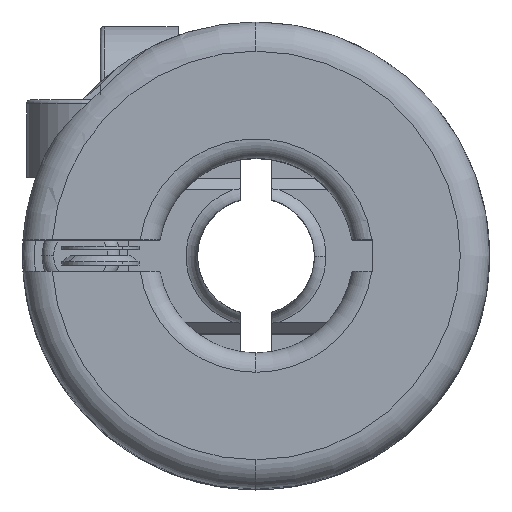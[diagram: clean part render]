
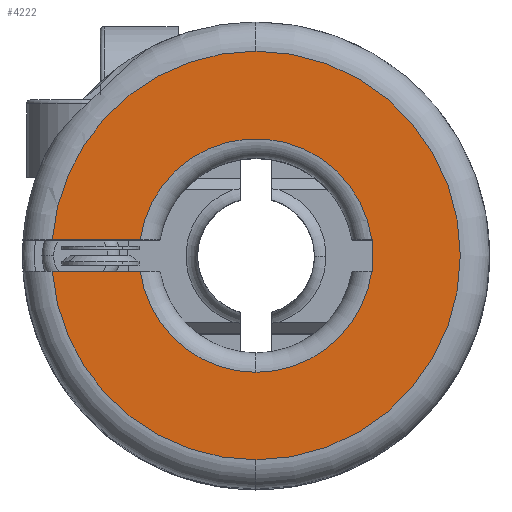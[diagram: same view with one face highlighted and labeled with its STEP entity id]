
A CAD part, top view. The second image highlights one B-rep face of the part: STEP entity #4222.
In plain terms, the highlighted planar face has unit normal (0, 0, 1).
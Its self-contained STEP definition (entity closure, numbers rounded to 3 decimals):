
#2493 = EDGE_CURVE ( 'NONE', #2494, #2495, #14446, .T. ) ;
#2494 = VERTEX_POINT ( 'NONE', #14432 ) ;
#2495 = VERTEX_POINT ( 'NONE', #14431 ) ;
#2546 = EDGE_CURVE ( 'NONE', #2547, #2494, #14548, .T. ) ;
#2547 = VERTEX_POINT ( 'NONE', #14543 ) ;
#2643 = VERTEX_POINT ( 'NONE', #14802 ) ;
#2645 = EDGE_CURVE ( 'NONE', #2646, #2643, #14801, .T. ) ;
#2646 = VERTEX_POINT ( 'NONE', #14796 ) ;
#4203 = ORIENTED_EDGE ( 'NONE', *, *, #2546, .T. ) ;
#4204 = ORIENTED_EDGE ( 'NONE', *, *, #2493, .T. ) ;
#4205 = ORIENTED_EDGE ( 'NONE', *, *, #4206, .F. ) ;
#4206 = EDGE_CURVE ( 'NONE', #4207, #2495, #19859, .T. ) ;
#4207 = VERTEX_POINT ( 'NONE', #19855 ) ;
#4208 = ORIENTED_EDGE ( 'NONE', *, *, #4209, .T. ) ;
#4209 = EDGE_CURVE ( 'NONE', #4207, #4210, #19854, .T. ) ;
#4210 = VERTEX_POINT ( 'NONE', #19849 ) ;
#4211 = ORIENTED_EDGE ( 'NONE', *, *, #4212, .F. ) ;
#4212 = EDGE_CURVE ( 'NONE', #4216, #4210, #19848, .T. ) ;
#4213 = ORIENTED_EDGE ( 'NONE', *, *, #4245, .F. ) ;
#4214 = ORIENTED_EDGE ( 'NONE', *, *, #4215, .T. ) ;
#4215 = EDGE_CURVE ( 'NONE', #4243, #2646, #19844, .T. ) ;
#4216 = VERTEX_POINT ( 'NONE', #19840 ) ;
#4222 = ADVANCED_FACE ( 'NONE', ( #19892 ), #19891, .F. ) ;
#4223 = EDGE_LOOP ( 'NONE', ( #4225, #4229, #4203, #4204, #4205, #4208, #4211, #4213, #4214, #4366, #4367 ) ) ;
#4225 = ORIENTED_EDGE ( 'NONE', *, *, #4226, .T. ) ;
#4226 = EDGE_CURVE ( 'NONE', #4227, #4228, #19881, .T. ) ;
#4227 = VERTEX_POINT ( 'NONE', #19877 ) ;
#4228 = VERTEX_POINT ( 'NONE', #19876 ) ;
#4229 = ORIENTED_EDGE ( 'NONE', *, *, #4230, .T. ) ;
#4230 = EDGE_CURVE ( 'NONE', #4228, #2547, #19875, .T. ) ;
#4243 = VERTEX_POINT ( 'NONE', #19906 ) ;
#4245 = EDGE_CURVE ( 'NONE', #4243, #4216, #19905, .T. ) ;
#4366 = ORIENTED_EDGE ( 'NONE', *, *, #2645, .T. ) ;
#4367 = ORIENTED_EDGE ( 'NONE', *, *, #4368, .T. ) ;
#4368 = EDGE_CURVE ( 'NONE', #2643, #4227, #20241, .T. ) ;
#14431 = CARTESIAN_POINT ( 'NONE',  ( -4.114, 2.395, 9.452 ) ) ;
#14432 = CARTESIAN_POINT ( 'NONE',  ( 1.121, 7.245, 9.452 ) ) ;
#14433 = DIRECTION ( 'NONE',  ( 0., -1., 0. ) ) ;
#14434 = DIRECTION ( 'NONE',  ( 0., 0., 1. ) ) ;
#14435 = AXIS2_PLACEMENT_3D ( 'NONE', #14445, #14434, #14433 ) ;
#14445 = CARTESIAN_POINT ( 'NONE',  ( 1.121, 1.995, 9.452 ) ) ;
#14446 = CIRCLE ( 'NONE', #14435, 5.25 ) ;
#14543 = CARTESIAN_POINT ( 'NONE',  ( 1.121, -3.255, 9.452 ) ) ;
#14544 = DIRECTION ( 'NONE',  ( 0., -1., 0. ) ) ;
#14545 = DIRECTION ( 'NONE',  ( 0., 0., 1. ) ) ;
#14546 = CARTESIAN_POINT ( 'NONE',  ( 1.121, 1.995, 9.452 ) ) ;
#14547 = AXIS2_PLACEMENT_3D ( 'NONE', #14546, #14545, #14544 ) ;
#14548 = CIRCLE ( 'NONE', #14547, 5.25 ) ;
#14796 = CARTESIAN_POINT ( 'NONE',  ( 4.094, 1.595, 9.452 ) ) ;
#14797 = DIRECTION ( 'NONE',  ( 0., -1., 0. ) ) ;
#14798 = DIRECTION ( 'NONE',  ( 0., 0., -1. ) ) ;
#14799 = CARTESIAN_POINT ( 'NONE',  ( 1.121, 1.995, 9.452 ) ) ;
#14800 = AXIS2_PLACEMENT_3D ( 'NONE', #14799, #14798, #14797 ) ;
#14801 = CIRCLE ( 'NONE', #14800, 3. ) ;
#14802 = CARTESIAN_POINT ( 'NONE',  ( 1.121, -1.005, 9.452 ) ) ;
#19840 = CARTESIAN_POINT ( 'NONE',  ( 4.121, 2.395, 9.452 ) ) ;
#19841 = DIRECTION ( 'NONE',  ( -1., 0., 0. ) ) ;
#19842 = VECTOR ( 'NONE', #19841, 1000. ) ;
#19843 = CARTESIAN_POINT ( 'NONE',  ( 4.121, 1.595, 9.452 ) ) ;
#19844 = LINE ( 'NONE', #19843, #19842 ) ;
#19845 = DIRECTION ( 'NONE',  ( -1., 0., 0. ) ) ;
#19846 = VECTOR ( 'NONE', #19845, 1000. ) ;
#19847 = CARTESIAN_POINT ( 'NONE',  ( 4.121, 2.395, 9.452 ) ) ;
#19848 = LINE ( 'NONE', #19847, #19846 ) ;
#19849 = CARTESIAN_POINT ( 'NONE',  ( 4.094, 2.395, 9.452 ) ) ;
#19850 = DIRECTION ( 'NONE',  ( 0., -1., 0. ) ) ;
#19851 = DIRECTION ( 'NONE',  ( 0., 0., -1. ) ) ;
#19852 = CARTESIAN_POINT ( 'NONE',  ( 1.121, 1.995, 9.452 ) ) ;
#19853 = AXIS2_PLACEMENT_3D ( 'NONE', #19852, #19851, #19850 ) ;
#19854 = CIRCLE ( 'NONE', #19853, 3. ) ;
#19855 = CARTESIAN_POINT ( 'NONE',  ( -1.852, 2.395, 9.452 ) ) ;
#19856 = DIRECTION ( 'NONE',  ( -1., 0., 0. ) ) ;
#19857 = VECTOR ( 'NONE', #19856, 1000. ) ;
#19858 = CARTESIAN_POINT ( 'NONE',  ( 4.121, 2.395, 9.452 ) ) ;
#19859 = LINE ( 'NONE', #19858, #19857 ) ;
#19871 = DIRECTION ( 'NONE',  ( 0., -1., 0. ) ) ;
#19872 = DIRECTION ( 'NONE',  ( 0., 0., 1. ) ) ;
#19873 = CARTESIAN_POINT ( 'NONE',  ( 1.121, 1.995, 9.452 ) ) ;
#19874 = AXIS2_PLACEMENT_3D ( 'NONE', #19873, #19872, #19871 ) ;
#19875 = CIRCLE ( 'NONE', #19874, 5.25 ) ;
#19876 = CARTESIAN_POINT ( 'NONE',  ( -4.114, 1.595, 9.452 ) ) ;
#19877 = CARTESIAN_POINT ( 'NONE',  ( -1.852, 1.595, 9.452 ) ) ;
#19878 = DIRECTION ( 'NONE',  ( -1., 0., 0. ) ) ;
#19879 = VECTOR ( 'NONE', #19878, 1000. ) ;
#19880 = CARTESIAN_POINT ( 'NONE',  ( 4.121, 1.595, 9.452 ) ) ;
#19881 = LINE ( 'NONE', #19880, #19879 ) ;
#19887 = DIRECTION ( 'NONE',  ( 0., -1., 0. ) ) ;
#19888 = DIRECTION ( 'NONE',  ( 0., 0., -1. ) ) ;
#19889 = CARTESIAN_POINT ( 'NONE',  ( 1.121, 1.995, 9.452 ) ) ;
#19890 = AXIS2_PLACEMENT_3D ( 'NONE', #19889, #19888, #19887 ) ;
#19891 = PLANE ( 'NONE',  #19890 ) ;
#19892 = FACE_OUTER_BOUND ( 'NONE', #4223, .T. ) ;
#19902 = DIRECTION ( 'NONE',  ( 0., 1., 0. ) ) ;
#19903 = VECTOR ( 'NONE', #19902, 1000. ) ;
#19904 = CARTESIAN_POINT ( 'NONE',  ( 4.121, 2.395, 9.452 ) ) ;
#19905 = LINE ( 'NONE', #19904, #19903 ) ;
#19906 = CARTESIAN_POINT ( 'NONE',  ( 4.121, 1.595, 9.452 ) ) ;
#20238 = DIRECTION ( 'NONE',  ( 0., -1., 0. ) ) ;
#20239 = DIRECTION ( 'NONE',  ( 0., 0., -1. ) ) ;
#20240 = AXIS2_PLACEMENT_3D ( 'NONE', #20245, #20239, #20238 ) ;
#20241 = CIRCLE ( 'NONE', #20240, 3. ) ;
#20245 = CARTESIAN_POINT ( 'NONE',  ( 1.121, 1.995, 9.452 ) ) ;
